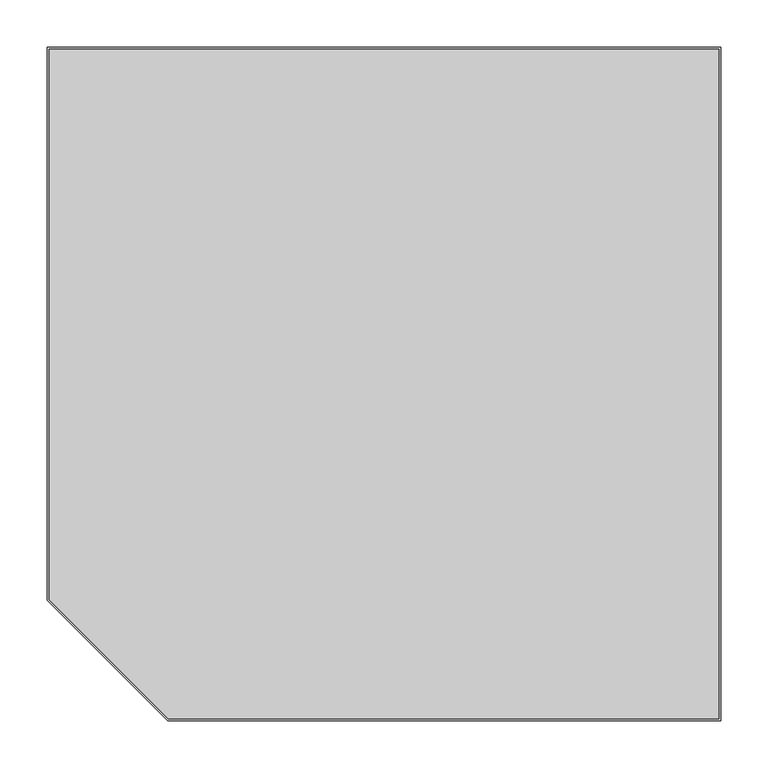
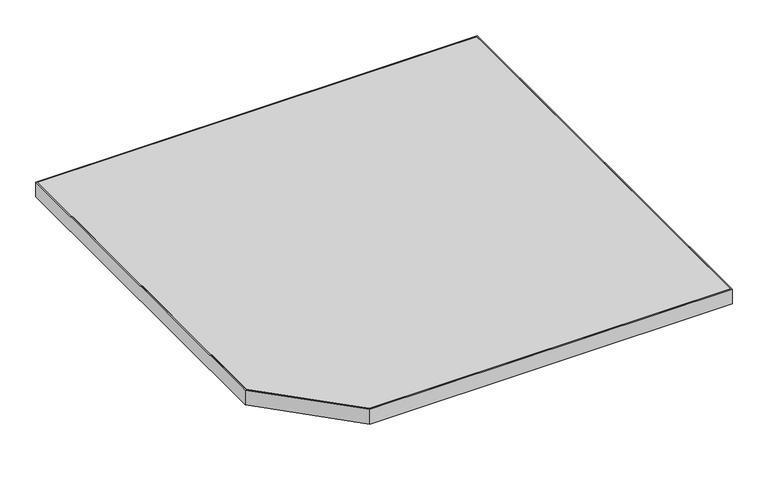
"""IFC4 building model written with IfcOpenShell, lengths in millimetres: furniture geometry, Wieland_HC-Monroe-Corner_Top_Square : 68MNSC2828."""

from ifc_helpers import new_model, si_unit, frame, origin, place, context, project, spatial, polyline, outline, extrude, source, transform, mapped, element, save


def furniture_1d1b14d9(model_context):
    return source(origin(), model_context, "Body", "SweptSolid", [
        extrude(outline(polyline([(709.215625, -1.984375), (709.215625, -709.215625), (127.821955, -709.215625), (1.984375, -583.378045), (1.984375, -1.984375), (709.215625, -1.984375)])), frame((0.0, 0.0, 317.5), z_axis=(0.0, 0.0, 1.0), x_axis=(1.0, 0.0, 0.0)), (0.0, 0.0, 1.0), 25.4),
        extrude(outline(polyline([(0.0, -584.2), (0.0, 0.0), (711.2, 0.0), (711.2, -711.2), (127.0, -711.2), (0.0, -584.2)]), holes=[polyline([(1.984375, -583.378045), (127.821955, -709.215625), (709.215625, -709.215625), (709.215625, -1.984375), (1.984375, -1.984375), (1.984375, -583.378045)])]), frame((0.0, 0.0, 317.5), z_axis=(0.0, 0.0, 1.0), x_axis=(1.0, 0.0, 0.0)), (0.0, 0.0, 1.0), 25.4),
    ])


if __name__ == "__main__":
    model = new_model("IFC4")
    model_context = context("Model", 3, world=origin())
    ifc_project = project(units=[si_unit("LENGTHUNIT", "METRE", prefix="MILLI")], contexts=[model_context])
    site = spatial("IfcSite", under=ifc_project)
    building = spatial("IfcBuilding", under=site)
    placement = place(None, origin())
    furniture_shape = furniture_1d1b14d9(model_context)
    element("IfcFurniture", 1, ObjectType="Wieland_HC-Monroe-Corner_Top_Square : 68MNSC2828", at=placement, inside=building, context=model_context, shape_type="MappedRepresentation", body=[
        mapped(furniture_shape, transform((0.0, 0.0, 0.0), x_axis=(1.0, 0.0, 0.0), y_axis=(0.0, 1.0, 0.0), z_axis=(0.0, 0.0, 1.0))),
    ])
    save(model, "model.ifc")
